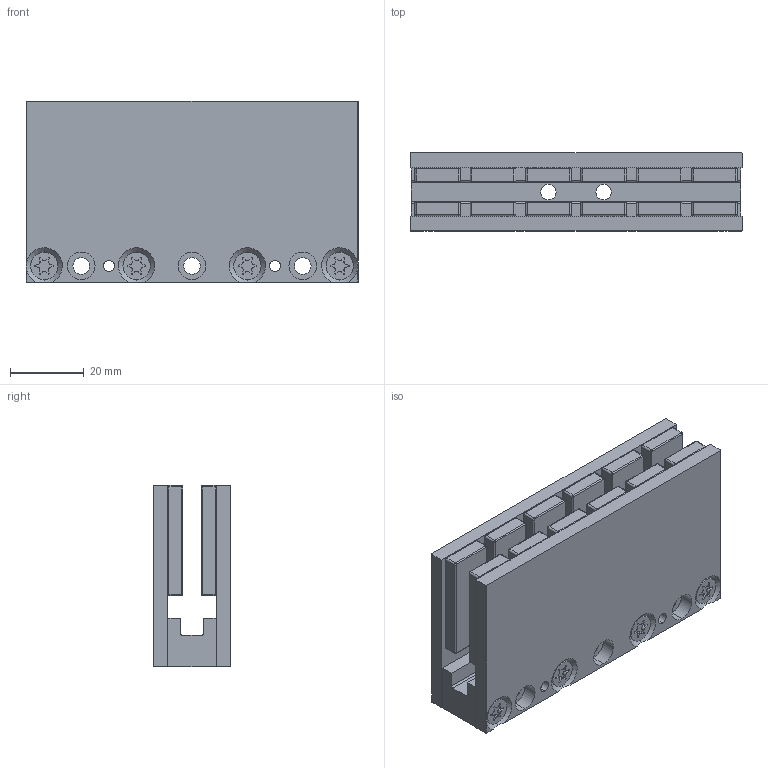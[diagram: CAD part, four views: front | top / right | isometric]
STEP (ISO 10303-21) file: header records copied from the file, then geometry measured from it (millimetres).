
FILE_DESCRIPTION (( 'STEP AP203' ), '1' );
FILE_NAME ('MY59-90.STEP', '2022-10-28T06:13:04', ( '' ), ( '' ), 'SwSTEP 2.0', 'SolidWorks 2021', '' );
FILE_SCHEMA (( 'CONFIG_CONTROL_DESIGN' ));
Length unit declared in the file: millimetre
Products named in the file (1): MY59-90
Bounding box: 89.9 x 21.1 x 49.2 mm (x, y, z)
Volume: 63214 mm3; surface area: 41404.2 mm2
Topology: 23 solids, 23 shells, 742 faces, 1812 edges, 1116 vertices
Faces by surface type: cylinder 356, plane 222, torus 96, cone 68
Entity records: 21981 total; most frequent: DIRECTION 4142, CARTESIAN_POINT 3731, ORIENTED_EDGE 3624, EDGE_CURVE 1812, AXIS2_PLACEMENT_3D 1607, VERTEX_POINT 1116, LINE 928, VECTOR 928
